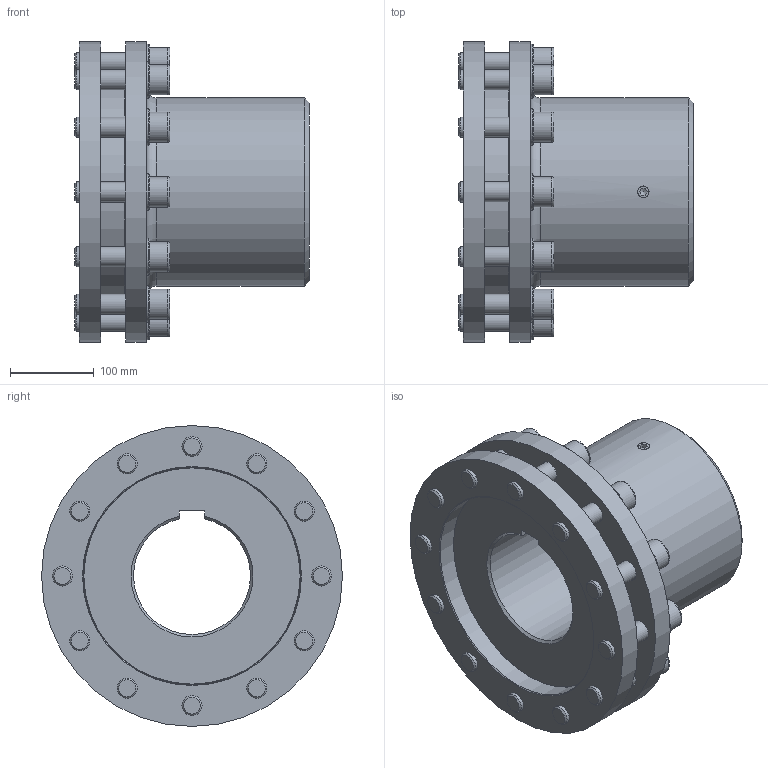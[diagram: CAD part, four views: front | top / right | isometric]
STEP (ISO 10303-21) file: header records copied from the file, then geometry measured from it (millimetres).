
FILE_DESCRIPTION(/* description */ (''),/* implementation_level */ '2;1');
FILE_NAME(/* name */ 'C:\Users\milman01\Desktop\step file\34445.stp',/* time_stamp */ '2017-03-15T10:23:41+01:00',/* author */ ('milman01'),/* organization */ (''),/* preprocessor_version */ 'ST-DEVELOPER v16.1',/* originating_system */ 'Autodesk Inventor 2016',/* authorisation */ '');
FILE_SCHEMA (('AUTOMOTIVE_DESIGN { 1 0 10303 214 3 1 1 }'));
Length unit declared in the file: millimetre
Products named in the file (1): 46823_Shrinkwrap_1
Bounding box: 281 x 360 x 360 mm (x, y, z)
Volume: 9786273.5 mm3; surface area: 741570.6 mm2
Topology: 1 solids, 1 shells, 307 faces, 666 edges, 426 vertices
Faces by surface type: plane 154, cylinder 81, cone 58, torus 14
Full cylindrical faces by diameter (mm): 13.835 x1, 24 x24, 25 x12, 26 x12, 36 x12, 44 x12, 225 x1, 260 x2, 360 x2
Entity records: 7602 total; most frequent: CARTESIAN_POINT 1371, DIRECTION 1236, ORIENTED_EDGE 956, EDGE_LOOP 546, AXIS2_PLACEMENT_3D 532, EDGE_CURVE 478, VERTEX_POINT 386, STYLED_ITEM 308
